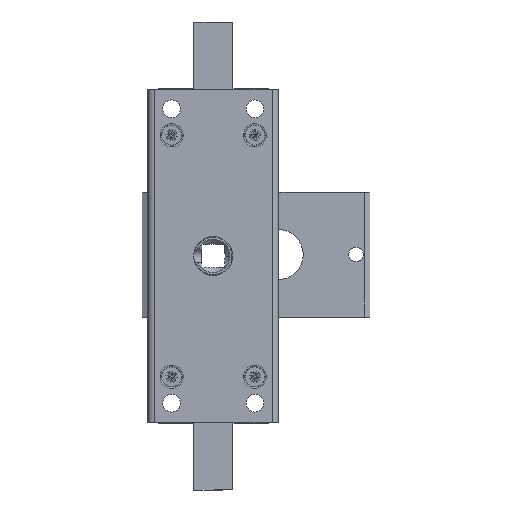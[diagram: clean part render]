
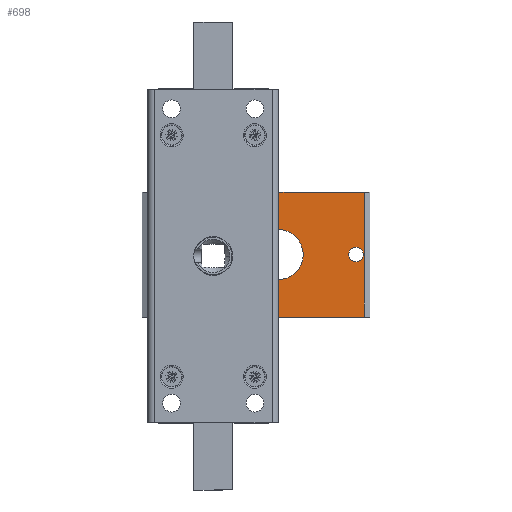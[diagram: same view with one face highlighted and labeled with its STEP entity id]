
A CAD part, front view. The second image highlights one B-rep face of the part: STEP entity #698.
In plain terms, the highlighted planar face has unit normal (0, -1, 0) as drawn and (0, 0, 1) by its records, which use the part's own axes.
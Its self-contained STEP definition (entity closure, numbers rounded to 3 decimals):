
#9 = EDGE_CURVE ( 'NONE', #9767, #6491, #3576, .T. ) ;
#151 = CARTESIAN_POINT ( 'NONE',  ( 58., 22.5, 4. ) ) ;
#209 = EDGE_CURVE ( 'NONE', #6616, #11425, #8124, .T. ) ;
#302 = EDGE_CURVE ( 'NONE', #2440, #6496, #11646, .T. ) ;
#314 = EDGE_CURVE ( 'NONE', #9761, #5115, #3558, .T. ) ;
#337 = EDGE_CURVE ( 'NONE', #1917, #9761, #11064, .T. ) ;
#353 = CARTESIAN_POINT ( 'NONE',  ( 0., 0., 4. ) ) ;
#368 = EDGE_CURVE ( 'NONE', #1917, #5974, #12549, .T. ) ;
#369 = LINE ( 'NONE', #1395, #11206 ) ;
#383 = DIRECTION ( 'NONE',  ( 1., 0., 0. ) ) ;
#389 = EDGE_CURVE ( 'NONE', #7057, #5974, #5332, .T. ) ;
#407 = EDGE_CURVE ( 'NONE', #9448, #7057, #12294, .T. ) ;
#408 = EDGE_CURVE ( 'NONE', #6761, #10879, #9870, .T. ) ;
#427 = EDGE_CURVE ( 'NONE', #6761, #1081, #1835, .T. ) ;
#448 = AXIS2_PLACEMENT_3D ( 'NONE', #151, #7610, #1330 ) ;
#459 = EDGE_CURVE ( 'NONE', #1081, #5115, #9286, .T. ) ;
#483 = EDGE_CURVE ( 'NONE', #6491, #6616, #6448, .T. ) ;
#502 = EDGE_CURVE ( 'NONE', #11425, #9767, #369, .T. ) ;
#537 = AXIS2_PLACEMENT_3D ( 'NONE', #8445, #2381, #9401 ) ;
#698 = ADVANCED_FACE ( 'NONE', ( #1822, #2174, #9860 ), #9955, .F. ) ;
#893 = CARTESIAN_POINT ( 'NONE',  ( 80., 0., 4. ) ) ;
#938 = VECTOR ( 'NONE', #383, 1000. ) ;
#1081 = VERTEX_POINT ( 'NONE', #4019 ) ;
#1099 = VECTOR ( 'NONE', #2195, 1000. ) ;
#1330 = DIRECTION ( 'NONE',  ( 1., 0., 0. ) ) ;
#1395 = CARTESIAN_POINT ( 'NONE',  ( 2.046, 45., 4. ) ) ;
#1414 = DIRECTION ( 'NONE',  ( 0., -1., 0. ) ) ;
#1822 = FACE_BOUND ( 'NONE', #3447, .T. ) ;
#1835 = LINE ( 'NONE', #3266, #12040 ) ;
#1917 = VERTEX_POINT ( 'NONE', #3039 ) ;
#2053 = CARTESIAN_POINT ( 'NONE',  ( 80., 45., 4. ) ) ;
#2174 = FACE_BOUND ( 'NONE', #3461, .T. ) ;
#2195 = DIRECTION ( 'NONE',  ( 0., 1., 0. ) ) ;
#2334 = DIRECTION ( 'NONE',  ( 0., -1., 0. ) ) ;
#2344 = CARTESIAN_POINT ( 'NONE',  ( 48.3, 0., 4. ) ) ;
#2381 = DIRECTION ( 'NONE',  ( 0., 0., 1. ) ) ;
#2440 = VERTEX_POINT ( 'NONE', #11430 ) ;
#2537 = VECTOR ( 'NONE', #5352, 1000. ) ;
#2600 = CARTESIAN_POINT ( 'NONE',  ( 2.046, 45., 4. ) ) ;
#2739 = EDGE_LOOP ( 'NONE', ( #9332, #9347, #9393, #9420 ) ) ;
#3039 = CARTESIAN_POINT ( 'NONE',  ( 42.7, 13.5, 4. ) ) ;
#3206 = DIRECTION ( 'NONE',  ( -1., 0., 0. ) ) ;
#3266 = CARTESIAN_POINT ( 'NONE',  ( 0., 13.5, 4. ) ) ;
#3373 = CARTESIAN_POINT ( 'NONE',  ( 33., 13.5, 4. ) ) ;
#3447 = EDGE_LOOP ( 'NONE', ( #8875, #8910 ) ) ;
#3461 = EDGE_LOOP ( 'NONE', ( #8911, #8971, #9041, #9080, #9092, #9123, #9200, #9241, #9261 ) ) ;
#3483 = DIRECTION ( 'NONE',  ( 1., 0., 0. ) ) ;
#3558 = CIRCLE ( 'NONE', #9069, 2.8 ) ;
#3559 = CARTESIAN_POINT ( 'NONE',  ( 58., 22.5, 4. ) ) ;
#3576 = LINE ( 'NONE', #353, #938 ) ;
#3684 = DIRECTION ( 'NONE',  ( -1., 0., 0. ) ) ;
#3720 = DIRECTION ( 'NONE',  ( 0., 0., 1. ) ) ;
#3847 = CARTESIAN_POINT ( 'NONE',  ( 0., 31.5, 4. ) ) ;
#3875 = CARTESIAN_POINT ( 'NONE',  ( 48.3, 5.3, 4. ) ) ;
#4019 = CARTESIAN_POINT ( 'NONE',  ( 48.3, 13.5, 4. ) ) ;
#4330 = DIRECTION ( 'NONE',  ( 1., 0., 0. ) ) ;
#4414 = DIRECTION ( 'NONE',  ( 0., 0., 1. ) ) ;
#4484 = CARTESIAN_POINT ( 'NONE',  ( 33., 22.5, 4. ) ) ;
#4603 = CARTESIAN_POINT ( 'NONE',  ( 0., 13.5, 4. ) ) ;
#5015 = VECTOR ( 'NONE', #3684, 1000. ) ;
#5115 = VERTEX_POINT ( 'NONE', #3875 ) ;
#5332 = CIRCLE ( 'NONE', #8680, 9. ) ;
#5352 = DIRECTION ( 'NONE',  ( -1., 0., 0. ) ) ;
#5870 = DIRECTION ( 'NONE',  ( 0., -1., 0. ) ) ;
#5974 = VERTEX_POINT ( 'NONE', #3373 ) ;
#6129 = CARTESIAN_POINT ( 'NONE',  ( 42.7, 0., 4. ) ) ;
#6327 = DIRECTION ( 'NONE',  ( 1., 0., 0. ) ) ;
#6448 = LINE ( 'NONE', #2053, #1099 ) ;
#6465 = CARTESIAN_POINT ( 'NONE',  ( 80., 45., 4. ) ) ;
#6468 = CARTESIAN_POINT ( 'NONE',  ( 45.5, 5.3, 4. ) ) ;
#6491 = VERTEX_POINT ( 'NONE', #893 ) ;
#6496 = VERTEX_POINT ( 'NONE', #11911 ) ;
#6518 = DIRECTION ( 'NONE',  ( 0., 0., 1. ) ) ;
#6556 = DIRECTION ( 'NONE',  ( 1., 0., 0. ) ) ;
#6581 = DIRECTION ( 'NONE',  ( 0., 0., 1. ) ) ;
#6608 = CIRCLE ( 'NONE', #537, 2.65 ) ;
#6616 = VERTEX_POINT ( 'NONE', #6465 ) ;
#6625 = CARTESIAN_POINT ( 'NONE',  ( 58., 31.5, 4. ) ) ;
#6664 = CARTESIAN_POINT ( 'NONE',  ( 5., 22.5, 4. ) ) ;
#6761 = VERTEX_POINT ( 'NONE', #11399 ) ;
#7057 = VERTEX_POINT ( 'NONE', #11797 ) ;
#7610 = DIRECTION ( 'NONE',  ( 0., 0., 1. ) ) ;
#7640 = CARTESIAN_POINT ( 'NONE',  ( 0., 45., 4. ) ) ;
#7763 = DIRECTION ( 'NONE',  ( -1., 0., 0. ) ) ;
#8024 = CARTESIAN_POINT ( 'NONE',  ( 2.046, 0., 4. ) ) ;
#8124 = LINE ( 'NONE', #7640, #8699 ) ;
#8252 = VECTOR ( 'NONE', #5870, 1000. ) ;
#8265 = AXIS2_PLACEMENT_3D ( 'NONE', #3559, #3720, #3483 ) ;
#8445 = CARTESIAN_POINT ( 'NONE',  ( 5., 22.5, 4. ) ) ;
#8680 = AXIS2_PLACEMENT_3D ( 'NONE', #4484, #4414, #4330 ) ;
#8699 = VECTOR ( 'NONE', #7763, 1000. ) ;
#8875 = ORIENTED_EDGE ( 'NONE', *, *, #302, .F. ) ;
#8910 = ORIENTED_EDGE ( 'NONE', *, *, #12591, .F. ) ;
#8911 = ORIENTED_EDGE ( 'NONE', *, *, #314, .F. ) ;
#8971 = ORIENTED_EDGE ( 'NONE', *, *, #337, .F. ) ;
#8975 = AXIS2_PLACEMENT_3D ( 'NONE', #6664, #6581, #6556 ) ;
#9041 = ORIENTED_EDGE ( 'NONE', *, *, #368, .T. ) ;
#9069 = AXIS2_PLACEMENT_3D ( 'NONE', #6468, #6518, #6327 ) ;
#9080 = ORIENTED_EDGE ( 'NONE', *, *, #389, .F. ) ;
#9092 = ORIENTED_EDGE ( 'NONE', *, *, #407, .F. ) ;
#9123 = ORIENTED_EDGE ( 'NONE', *, *, #12643, .F. ) ;
#9200 = ORIENTED_EDGE ( 'NONE', *, *, #408, .F. ) ;
#9241 = ORIENTED_EDGE ( 'NONE', *, *, #427, .T. ) ;
#9261 = ORIENTED_EDGE ( 'NONE', *, *, #459, .T. ) ;
#9286 = LINE ( 'NONE', #2344, #11499 ) ;
#9332 = ORIENTED_EDGE ( 'NONE', *, *, #9, .T. ) ;
#9347 = ORIENTED_EDGE ( 'NONE', *, *, #483, .T. ) ;
#9393 = ORIENTED_EDGE ( 'NONE', *, *, #209, .T. ) ;
#9401 = DIRECTION ( 'NONE',  ( 1., 0., 0. ) ) ;
#9420 = ORIENTED_EDGE ( 'NONE', *, *, #502, .T. ) ;
#9448 = VERTEX_POINT ( 'NONE', #6625 ) ;
#9761 = VERTEX_POINT ( 'NONE', #11721 ) ;
#9767 = VERTEX_POINT ( 'NONE', #8024 ) ;
#9860 = FACE_OUTER_BOUND ( 'NONE', #2739, .T. ) ;
#9870 = CIRCLE ( 'NONE', #8265, 9. ) ;
#9879 = DIRECTION ( 'NONE',  ( -1., 0., 0. ) ) ;
#9908 = DIRECTION ( 'NONE',  ( 0., 0., -1. ) ) ;
#9955 = PLANE ( 'NONE',  #10419 ) ;
#10089 = CARTESIAN_POINT ( 'NONE',  ( 0., 45., 4. ) ) ;
#10419 = AXIS2_PLACEMENT_3D ( 'NONE', #10089, #9908, #9879 ) ;
#10879 = VERTEX_POINT ( 'NONE', #11913 ) ;
#11064 = LINE ( 'NONE', #6129, #8252 ) ;
#11067 = CIRCLE ( 'NONE', #448, 9. ) ;
#11206 = VECTOR ( 'NONE', #1414, 1000. ) ;
#11399 = CARTESIAN_POINT ( 'NONE',  ( 58., 13.5, 4. ) ) ;
#11425 = VERTEX_POINT ( 'NONE', #2600 ) ;
#11430 = CARTESIAN_POINT ( 'NONE',  ( 7.65, 22.5, 4. ) ) ;
#11499 = VECTOR ( 'NONE', #2334, 1000. ) ;
#11646 = CIRCLE ( 'NONE', #8975, 2.65 ) ;
#11721 = CARTESIAN_POINT ( 'NONE',  ( 42.7, 5.3, 4. ) ) ;
#11797 = CARTESIAN_POINT ( 'NONE',  ( 33., 31.5, 4. ) ) ;
#11911 = CARTESIAN_POINT ( 'NONE',  ( 2.35, 22.5, 4. ) ) ;
#11913 = CARTESIAN_POINT ( 'NONE',  ( 67., 22.5, 4. ) ) ;
#12040 = VECTOR ( 'NONE', #3206, 1000. ) ;
#12294 = LINE ( 'NONE', #3847, #5015 ) ;
#12549 = LINE ( 'NONE', #4603, #2537 ) ;
#12591 = EDGE_CURVE ( 'NONE', #6496, #2440, #6608, .T. ) ;
#12643 = EDGE_CURVE ( 'NONE', #10879, #9448, #11067, .T. ) ;
